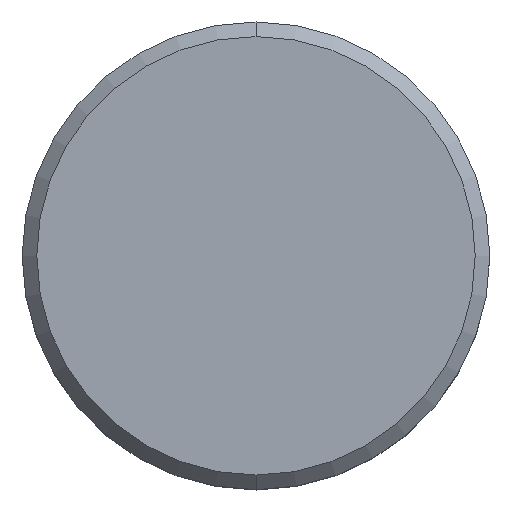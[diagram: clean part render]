
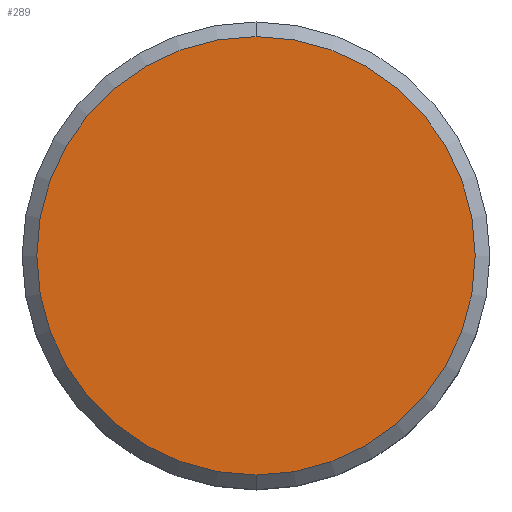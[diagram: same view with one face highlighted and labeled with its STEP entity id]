
A CAD part, top view. The second image highlights one B-rep face of the part: STEP entity #289.
In plain terms, the highlighted planar face has unit normal (0, 0, 1).
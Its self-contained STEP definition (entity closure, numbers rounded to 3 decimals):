
#4 = EDGE_CURVE ( 'NONE', #262, #37, #230, .T. ) ;
#15 = AXIS2_PLACEMENT_3D ( 'NONE', #153, #189, #398 ) ;
#18 = AXIS2_PLACEMENT_3D ( 'NONE', #54, #86, #133 ) ;
#37 = VERTEX_POINT ( 'NONE', #298 ) ;
#54 = CARTESIAN_POINT ( 'NONE',  ( 0., 0., 0. ) ) ;
#62 = CARTESIAN_POINT ( 'NONE',  ( 0., 7.5, 0. ) ) ;
#86 = DIRECTION ( 'NONE',  ( 0., 0., -1. ) ) ;
#115 = CARTESIAN_POINT ( 'NONE',  ( 0., 0., 0. ) ) ;
#133 = DIRECTION ( 'NONE',  ( 0., 1., 0. ) ) ;
#153 = CARTESIAN_POINT ( 'NONE',  ( 0., 0., 0. ) ) ;
#171 = AXIS2_PLACEMENT_3D ( 'NONE', #115, #315, #196 ) ;
#189 = DIRECTION ( 'NONE',  ( 0., 0., 1. ) ) ;
#196 = DIRECTION ( 'NONE',  ( 0., 1., 0. ) ) ;
#230 = CIRCLE ( 'NONE', #18, 7.5 ) ;
#243 = ORIENTED_EDGE ( 'NONE', *, *, #4, .F. ) ;
#262 = VERTEX_POINT ( 'NONE', #62 ) ;
#289 = ADVANCED_FACE ( 'NONE', ( #402 ), #331, .T. ) ;
#298 = CARTESIAN_POINT ( 'NONE',  ( 0., -7.5, 0. ) ) ;
#315 = DIRECTION ( 'NONE',  ( 0., 0., -1. ) ) ;
#331 = PLANE ( 'NONE',  #15 ) ;
#354 = CIRCLE ( 'NONE', #171, 7.5 ) ;
#374 = EDGE_CURVE ( 'NONE', #37, #262, #354, .T. ) ;
#391 = ORIENTED_EDGE ( 'NONE', *, *, #374, .F. ) ;
#398 = DIRECTION ( 'NONE',  ( 0., -1., 0. ) ) ;
#402 = FACE_OUTER_BOUND ( 'NONE', #408, .T. ) ;
#408 = EDGE_LOOP ( 'NONE', ( #243, #391 ) ) ;
